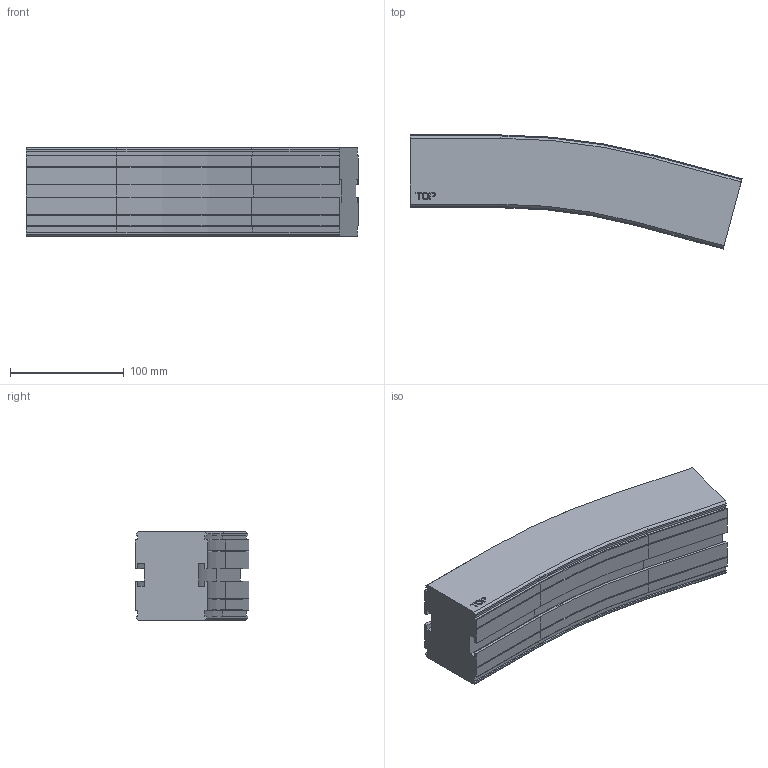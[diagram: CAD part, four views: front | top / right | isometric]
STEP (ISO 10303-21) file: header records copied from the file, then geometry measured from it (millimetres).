
FILE_DESCRIPTION((''),'2;1');
FILE_NAME('C:\Vault Klient\Projekt\Koncept konstruktion\Serie 620 Balk\620-5280.stp','2009-11-26T15:07:34',('Mathias'),(''),'Autodesk Inventor 2010','Autodesk Inventor 2010','');
FILE_SCHEMA(('AUTOMOTIVE_DESIGN { 1 0 10303 214 1 1 1 1 }'));
Length unit declared in the file: millimetre
Products named in the file (1): 620-5280
Bounding box: 292.12 x 100.28 x 78 mm (x, y, z)
Volume: 1339415 mm3; surface area: 113144.1 mm2
Topology: 1 solids, 1 shells, 169 faces, 446 edges, 284 vertices
Faces by surface type: plane 109, cylinder 30, bspline 14, cone 12, torus 4
Entity records: 5295 total; most frequent: CARTESIAN_POINT 1094, ORIENTED_EDGE 892, DIRECTION 802, EDGE_CURVE 446, VECTOR 346, LINE 346, VERTEX_POINT 284, AXIS2_PLACEMENT_3D 228
